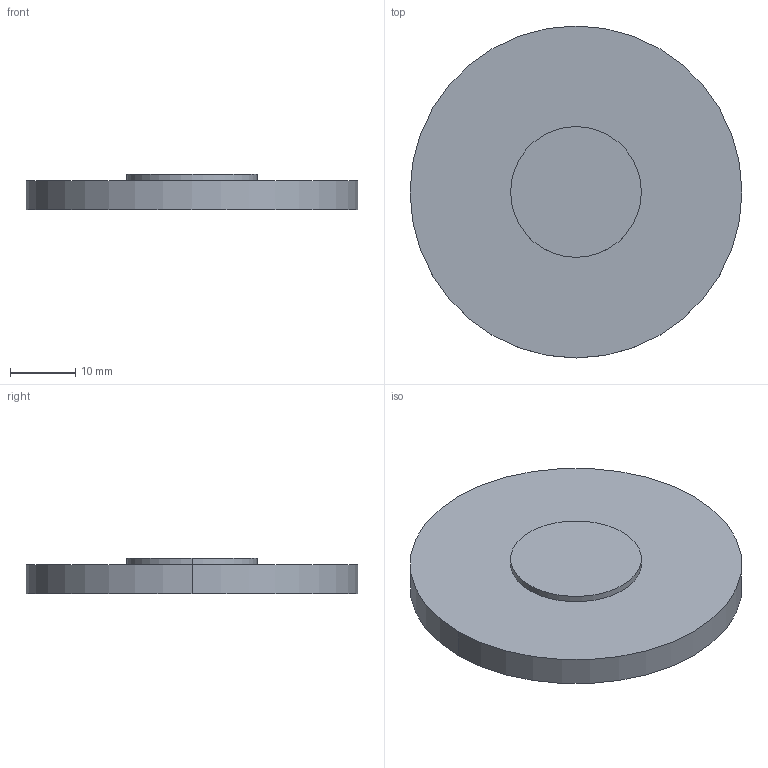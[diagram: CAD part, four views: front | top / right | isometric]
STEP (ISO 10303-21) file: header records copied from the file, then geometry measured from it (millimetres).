
FILE_DESCRIPTION(('STEP AP214'),'1');
FILE_NAME('LLZ-5120M.STEP','2020-03-09T17:42:37',(' '),(' '),'Spatial InterOp 3D',' ',' ');
FILE_SCHEMA(('AUTOMOTIVE_DESIGN { 1 0 10303 214 1 1 1 1 }'));
Length unit declared in the file: millimetre
Products named in the file (1): 1
Bounding box: 50.8 x 50.8 x 5.5 mm (x, y, z)
Volume: 9423.1 mm3; surface area: 5461.1 mm2
Topology: 2 solids, 2 shells, 9 faces, 16 edges, 9 vertices
Faces by surface type: cylinder 4, plane 3, sphere 2
Entity records: 229 total; most frequent: DIRECTION 46, CARTESIAN_POINT 34, ORIENTED_EDGE 28, AXIS2_PLACEMENT_3D 21, EDGE_CURVE 14, CIRCLE 10, ADVANCED_FACE 9, FACE_OUTER_BOUND 9
